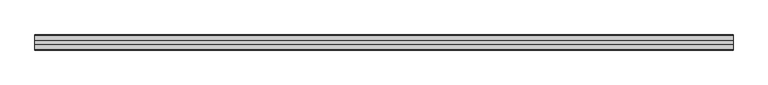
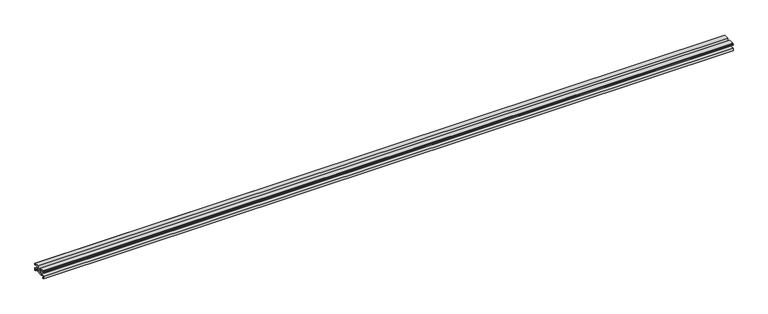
"""IFC4 building model written with IfcOpenShell, lengths in millimetres: proxy geometry, Weiku - Montante - Acoplamento vidro : Weiku - Montante - Acoplamento vidro."""

import ifcopenshell
import ifcopenshell.guid

model = None  # the IFC model being written
_history = None  # IfcOwnerHistory: only IFC2X3 demands one
_inside = {}  # id of a spatial element -> (the spatial element, [elements in it])
_under = {}  # id of a project, library or spatial element -> (it, [spatial elements below it])
_declared = {}  # id of a project -> (the project, [libraries it declares])
_typed = {}  # id of a type object -> (the type object, [elements of that type])
_made_of = {}  # id of a material, layer set ... -> (it, [elements and type objects made of it])


def new_model(schema):
    """Start an empty IFC model of exactly this schema.

    Asked for "IFC4X3", IfcOpenShell would pick the latest addendum, in which some entities
    have other attributes; the version numbers below select the first issue.
    IFC2X3 requires an IfcOwnerHistory on every rooted entity: one is made here for all.
    """
    global model, _history
    if schema == "IFC4X3":
        model = ifcopenshell.file(schema_version=(4, 3, 0, 0))
    else:
        model = ifcopenshell.file(schema=schema)
    _inside.clear()
    _under.clear()
    _declared.clear()
    _typed.clear()
    _made_of.clear()
    _history = None
    if model.schema == "IFC2X3":
        org = make("IfcOrganization", Name="unknown")
        user = make(
            "IfcPersonAndOrganization",
            ThePerson=make("IfcPerson", FamilyName="unknown"),
            TheOrganization=org,
        )
        app = make(
            "IfcApplication",
            ApplicationDeveloper=org,
            Version="unknown",
            ApplicationFullName="unknown",
            ApplicationIdentifier="unknown",
        )
        _history = make(
            "IfcOwnerHistory",
            OwningUser=user,
            OwningApplication=app,
            ChangeAction="ADDED",
            CreationDate=0,
        )
    return model


def make(cls, **values):
    """One entity of the class cls with the attributes given. An attribute that is None is left unset."""
    return model.create_entity(
        cls, **{name: value for name, value in values.items() if value is not None}
    )


def rooted(cls, **values):
    """An entity with a GlobalId (a new one), such as an element, a storey or a relation."""
    return make(cls, GlobalId=ifcopenshell.guid.new(), OwnerHistory=_history, **values)


def si_unit(unit_type, name, prefix=None):
    """IfcSIUnit, for example si_unit("LENGTHUNIT", "METRE", prefix="MILLI")."""
    return make("IfcSIUnit", UnitType=unit_type, Prefix=prefix, Name=name)


def assignment(units):
    """IfcUnitAssignment: the units of a project."""
    return None if units is None else make("IfcUnitAssignment", Units=units)


def point(xyz):
    """IfcCartesianPoint."""
    return None if xyz is None else make("IfcCartesianPoint", Coordinates=xyz)


def direction(xyz):
    """IfcDirection."""
    return None if xyz is None else make("IfcDirection", DirectionRatios=xyz)


def frame(location, z_axis=None, x_axis=None):
    """IfcAxis2Placement3D, a coordinate frame: its origin and axes. An axis left out is left unset."""
    return make(
        "IfcAxis2Placement3D",
        Location=point(location),
        Axis=direction(z_axis),
        RefDirection=direction(x_axis),
    )


def origin():
    """The frame at (0, 0, 0) with its axes left unset."""
    return frame((0.0, 0.0, 0.0))


def place(relative_to, where):
    """IfcLocalPlacement: puts the frame where relative to a parent placement (None: the world)."""
    return make(
        "IfcLocalPlacement", PlacementRelTo=relative_to, RelativePlacement=where
    )


def context(
    kind, dimensions, precision=None, world=None, true_north=None, identifier=None
):
    """IfcGeometricRepresentationContext, for example the 3D "Model" context."""
    return make(
        "IfcGeometricRepresentationContext",
        ContextIdentifier=identifier,
        ContextType=kind,
        CoordinateSpaceDimension=dimensions,
        Precision=precision,
        WorldCoordinateSystem=world,
        TrueNorth=true_north,
    )


def project(units=None, contexts=None):
    """IfcProject with its units and contexts."""
    return rooted(
        "IfcProject",
        Name="project",
        RepresentationContexts=contexts,
        UnitsInContext=assignment(units),
    )


def spatial(cls, under=None, at=None, **own):
    """A site, building, storey or space (cls), placed at a placement, below another one or the project."""
    s = rooted(cls, ObjectPlacement=at, **own)
    if under is not None:
        _under.setdefault(under.id(), (under, []))[1].append(s)
    return s


def polyline(points):
    """IfcPolyline through the points."""
    return make("IfcPolyline", Points=[point(p) for p in points])


def outline(outer, holes=None, kind="AREA"):
    """IfcArbitraryClosedProfileDef: a profile drawn as a closed curve; with holes, ...WithVoids."""
    if holes is None:
        return make("IfcArbitraryClosedProfileDef", ProfileType=kind, OuterCurve=outer)
    return make(
        "IfcArbitraryProfileDefWithVoids",
        ProfileType=kind,
        OuterCurve=outer,
        InnerCurves=holes,
    )


def extrude(swept, where, along, depth):
    """IfcExtrudedAreaSolid: the profile swept, set in the frame where, extruded along a direction by depth."""
    return make(
        "IfcExtrudedAreaSolid",
        SweptArea=swept,
        Position=where,
        ExtrudedDirection=direction(along),
        Depth=depth,
    )


def shape(context_of_items, identifier, shape_type, items):
    """IfcShapeRepresentation: the items that make up one representation, for example the "Body"."""
    return make(
        "IfcShapeRepresentation",
        ContextOfItems=context_of_items,
        RepresentationIdentifier=identifier,
        RepresentationType=shape_type,
        Items=items,
    )


def source(mapping_origin, context_of_items, identifier, shape_type, items):
    """IfcRepresentationMap: a shape defined once, which mapped items show again and again."""
    return make(
        "IfcRepresentationMap",
        MappingOrigin=mapping_origin,
        MappedRepresentation=shape(context_of_items, identifier, shape_type, items),
    )


def transform(
    local_origin,
    x_axis=None,
    y_axis=None,
    z_axis=None,
    scale=None,
    scale2=None,
    scale3=None,
    uniform=True,
):
    """IfcCartesianTransformationOperator3D, or its non-uniform kind. x_axis, y_axis, z_axis: its Axis1, 2, 3."""
    if uniform:
        return make(
            "IfcCartesianTransformationOperator3D",
            Axis1=direction(x_axis),
            Axis2=direction(y_axis),
            LocalOrigin=point(local_origin),
            Scale=scale,
            Axis3=direction(z_axis),
        )
    return make(
        "IfcCartesianTransformationOperator3DnonUniform",
        Axis1=direction(x_axis),
        Axis2=direction(y_axis),
        LocalOrigin=point(local_origin),
        Scale=scale,
        Axis3=direction(z_axis),
        Scale2=scale2,
        Scale3=scale3,
    )


def mapped(mapping_source, mapping_target):
    """IfcMappedItem: shows the shape of a source again, moved by a transform."""
    return make(
        "IfcMappedItem", MappingSource=mapping_source, MappingTarget=mapping_target
    )


def made_of(thing, what):
    """Note that an element or type object is made of a material, layer set ...; save() writes the relation."""
    if what is not None:
        _made_of.setdefault(what.id(), (what, []))[1].append(thing)
    return thing


def element(
    cls,
    number,
    at=None,
    inside=None,
    cuts=None,
    type_object=None,
    material=None,
    context=None,
    identifier="Body",
    shape_type=None,
    held_by="IfcProductDefinitionShape",
    body=None,
    shapes=None,
    **own,
):
    """One element of the class cls, such as IfcWall. Its Tag is "e" and its number.

    at: its placement. inside: the storey or other place that contains it. cuts: it is an
    opening in that element (IfcRelVoidsElement). A single representation is given by context,
    identifier, shape_type and body (its items); several are given by shapes. held_by: the class
    of the entity that holds the representations. save() writes the other relations.
    """
    e = rooted(cls, Tag="e%d" % number, ObjectPlacement=at, **own)
    if body is not None:
        shapes = [shape(context, identifier, shape_type, body)]
    if shapes is not None:
        e.Representation = make(held_by, Representations=shapes)
    if inside is not None:
        _inside.setdefault(inside.id(), (inside, []))[1].append(e)
    if cuts is not None:
        rooted(
            "IfcRelVoidsElement", RelatingBuildingElement=cuts, RelatedOpeningElement=e
        )
    if type_object is not None:
        _typed.setdefault(type_object.id(), (type_object, []))[1].append(e)
    return made_of(e, material)


def aggregate(whole, parts):
    """IfcRelAggregates: a whole, such as a stair, and the parts it consists of."""
    return rooted("IfcRelAggregates", RelatingObject=whole, RelatedObjects=parts)


def save(model, path):
    """Write the relations noted so far, then the file.

    IfcRelAggregates (storeys below a building ...), IfcRelContainedInSpatialStructure (elements
    in a storey), IfcRelDefinesByType, IfcRelAssociatesMaterial and IfcRelDeclares: one each for
    every whole, place, type object, material and project.
    """
    for whole, parts in _under.values():
        aggregate(whole, parts)
    for where, things in _inside.values():
        rooted(
            "IfcRelContainedInSpatialStructure",
            RelatedElements=things,
            RelatingStructure=where,
        )
    for kind, things in _typed.values():
        rooted("IfcRelDefinesByType", RelatedObjects=things, RelatingType=kind)
    for what, things in _made_of.values():
        rooted("IfcRelAssociatesMaterial", RelatedObjects=things, RelatingMaterial=what)
    for by, libraries in _declared.values():
        rooted("IfcRelDeclares", RelatingContext=by, RelatedDefinitions=libraries)
    model.write(path)


def generic_models_f967d2b1(model_context):
    return source(origin(), model_context, "Body", "SweptSolid", [
        extrude(outline(polyline([(35.405, 5.1494), (12.495, 5.1494), (12.495, 6.8004), (2.159, 6.8004), (2.159, 2.6094), (4.0216, 2.6094), (4.0216, 0.0), (-0.0014508, 0.0), (-0.0014508, 8.79), (12.954, 8.79), (12.954, 23.3104), (4.3603, 23.3104), (4.3603, 19.204), (0.0, 19.204), (0.0, 22.8024), (0.9736, 22.8024), (0.9736, 20.3894), (3.175, 20.3894), (3.175, 23.9454), (2.3735496, 23.9454), (2.3735496, 25.3), (17.4836, 25.3), (17.4836, 16.283), (15.4516, 16.283), (15.4516, 8.8), (32.4484, 8.8), (32.4484, 16.283), (30.4164, 16.283), (30.4164, 25.3), (45.5264504, 25.3), (45.5264504, 23.9454), (44.725, 23.9454), (44.725, 20.3894), (46.9264, 20.3894), (46.9264, 22.8024), (47.9, 22.8024), (47.9, 19.204), (43.5397, 19.204), (43.5397, 23.3104), (34.946, 23.3104), (34.946, 8.79), (47.9014508, 8.79), (47.9014508, 0.0), (43.8784, 0.0), (43.8784, 2.6094), (45.741, 2.6094), (45.741, 6.8004), (35.405, 6.8004), (35.405, 5.1494)])), frame((-1104.9, 0.0, 0.0), z_axis=(1.0, 0.0, 0.0), x_axis=(0.0, 1.0, 0.0)), (0.0, 0.0, 1.0), 2209.8),
    ])


if __name__ == "__main__":
    model = new_model("IFC4")
    model_context = context("Model", 3, world=origin())
    ifc_project = project(units=[si_unit("LENGTHUNIT", "METRE", prefix="MILLI")], contexts=[model_context])
    site = spatial("IfcSite", under=ifc_project)
    building = spatial("IfcBuilding", under=site)
    placement = place(None, origin())
    generic_models_shape = generic_models_f967d2b1(model_context)
    element("IfcBuildingElementProxy", 1, Name="Weiku - Montante - Acoplamento vidro : Weiku - Montante - Acoplamento vidro", ObjectType="Weiku - Montante - Acoplamento vidro : Weiku - Montante - Acoplamento vidro", at=placement, inside=building, context=model_context, shape_type="MappedRepresentation", body=[
        mapped(generic_models_shape, transform((0.0, 0.0, 0.0), x_axis=(1.0, 0.0, 0.0), y_axis=(0.0, 1.0, 0.0), z_axis=(0.0, 0.0, 1.0))),
    ])
    save(model, "model.ifc")
